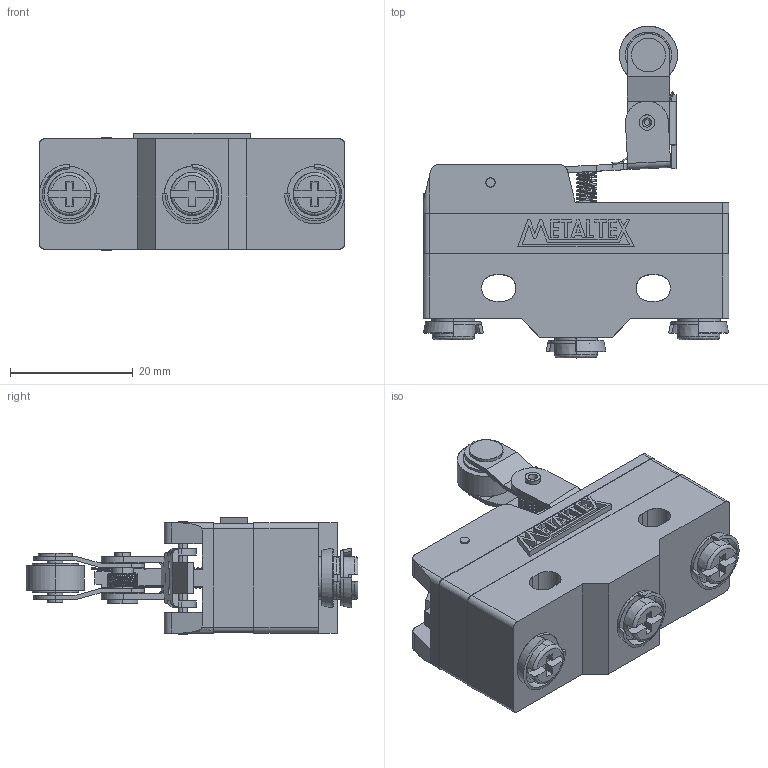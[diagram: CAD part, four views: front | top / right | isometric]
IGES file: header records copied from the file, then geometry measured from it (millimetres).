
Start section: SolidWorks IGES file using analytic representation for surfaces
Global section: file name: D:\X - Arquivos\PROEX\Empresas\P11 - METALTEX\01 - Produtos\IGES\4ª remessa\5ª etapa\FM1743.IGS; native system: SolidWorks 2012; preprocessor: SolidWorks 2012; author: Usuario; date: 180601.135247; units: millimetre
Bounding box: 49.9 x 54.15 x 19.15 mm (x, y, z)
Surface area: 9381 mm2 (no closed solid volume)
Topology: 0 solids, 0 shells, 447 faces, 4948 edges, 4947 vertices
Faces by surface type: bspline 311, revolution 136
